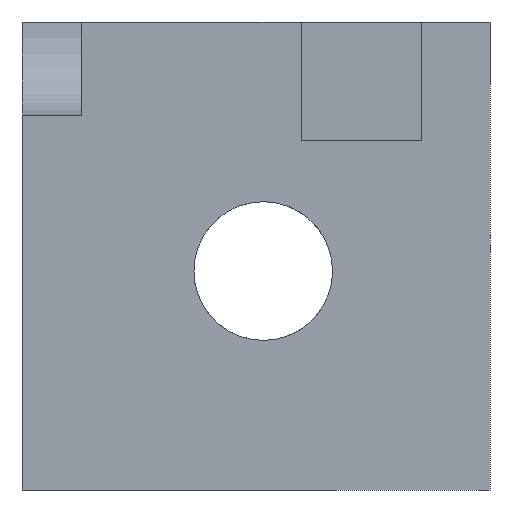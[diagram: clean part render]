
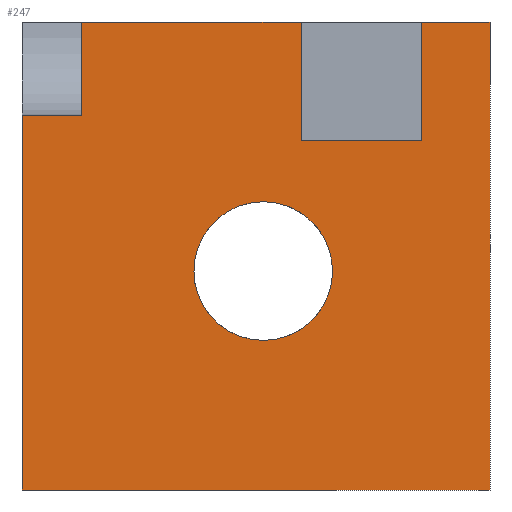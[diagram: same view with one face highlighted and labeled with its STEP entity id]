
A CAD part, left-side view. The second image highlights one B-rep face of the part: STEP entity #247.
In plain terms, the highlighted planar face has unit normal (-1, 0, 0).
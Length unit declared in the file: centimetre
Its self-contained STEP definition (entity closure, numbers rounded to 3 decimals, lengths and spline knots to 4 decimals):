
#8 = VERTEX_POINT ( 'NONE', #590 ) ;
#16 = ORIENTED_EDGE ( 'NONE', *, *, #20, .F. ) ;
#20 = EDGE_CURVE ( 'NONE', #8, #983, #347, .T. ) ;
#25 = ORIENTED_EDGE ( 'NONE', *, *, #130, .F. ) ;
#30 = CARTESIAN_POINT ( 'NONE',  ( 0., 484.528, 615.9518 ) ) ;
#35 = EDGE_CURVE ( 'NONE', #531, #144, #831, .T. ) ;
#53 = LINE ( 'NONE', #872, #453 ) ;
#58 = DIRECTION ( 'NONE',  ( 1., 0., 0. ) ) ;
#64 = EDGE_CURVE ( 'NONE', #198, #599, #1035, .T. ) ;
#67 = CARTESIAN_POINT ( 'NONE',  ( 0., 872.1332, 1000. ) ) ;
#76 = DIRECTION ( 'NONE',  ( 0., 0., -1. ) ) ;
#78 = VERTEX_POINT ( 'NONE', #966 ) ;
#101 = EDGE_CURVE ( 'NONE', #983, #333, #723, .T. ) ;
#103 = CARTESIAN_POINT ( 'NONE',  ( 0., 1000., 1000. ) ) ;
#108 = CIRCLE ( 'NONE', #685, 148.1271 ) ;
#114 = CARTESIAN_POINT ( 'NONE',  ( 0., 1000., 0. ) ) ;
#126 = DIRECTION ( 'NONE',  ( 0., 0., -1. ) ) ;
#128 = CARTESIAN_POINT ( 'NONE',  ( 0., 146.6633, 747.7578 ) ) ;
#130 = EDGE_CURVE ( 'NONE', #765, #531, #730, .T. ) ;
#132 = CARTESIAN_POINT ( 'NONE',  ( 0., 0., 1000. ) ) ;
#144 = VERTEX_POINT ( 'NONE', #890 ) ;
#157 = DIRECTION ( 'NONE',  ( 0., 0., 1. ) ) ;
#172 = CARTESIAN_POINT ( 'NONE',  ( 0., 1000., 800.3839 ) ) ;
#176 = ORIENTED_EDGE ( 'NONE', *, *, #183, .F. ) ;
#178 = FACE_OUTER_BOUND ( 'NONE', #356, .T. ) ;
#183 = EDGE_CURVE ( 'NONE', #78, #709, #406, .T. ) ;
#191 = LINE ( 'NONE', #594, #468 ) ;
#198 = VERTEX_POINT ( 'NONE', #172 ) ;
#206 = CARTESIAN_POINT ( 'NONE',  ( 0., 872.1332, 1000. ) ) ;
#209 = VECTOR ( 'NONE', #76, 100. ) ;
#228 = CARTESIAN_POINT ( 'NONE',  ( 0., 484.528, 467.8248 ) ) ;
#247 = ADVANCED_FACE ( 'NONE', ( #254, #178 ), #579, .F. ) ;
#254 = FACE_BOUND ( 'NONE', #492, .T. ) ;
#267 = AXIS2_PLACEMENT_3D ( 'NONE', #228, #58, #554 ) ;
#278 = CARTESIAN_POINT ( 'NONE',  ( 0., 484.528, 467.8248 ) ) ;
#282 = VECTOR ( 'NONE', #911, 100. ) ;
#333 = VERTEX_POINT ( 'NONE', #741 ) ;
#347 = LINE ( 'NONE', #508, #282 ) ;
#349 = VECTOR ( 'NONE', #157, 100. ) ;
#356 = EDGE_LOOP ( 'NONE', ( #25, #566, #729, #1031, #425, #16, #968, #176, #705, #969 ) ) ;
#359 = DIRECTION ( 'NONE',  ( 0., 1., 0. ) ) ;
#406 = LINE ( 'NONE', #419, #649 ) ;
#419 = CARTESIAN_POINT ( 'NONE',  ( 0., 146.6633, 747.7578 ) ) ;
#425 = ORIENTED_EDGE ( 'NONE', *, *, #101, .F. ) ;
#433 = DIRECTION ( 'NONE',  ( 0., -1., 0. ) ) ;
#448 = DIRECTION ( 'NONE',  ( 0., 0., -1. ) ) ;
#453 = VECTOR ( 'NONE', #560, 100. ) ;
#456 = EDGE_CURVE ( 'NONE', #765, #198, #191, .T. ) ;
#467 = EDGE_CURVE ( 'NONE', #814, #578, #108, .T. ) ;
#468 = VECTOR ( 'NONE', #359, 100. ) ;
#479 = CARTESIAN_POINT ( 'NONE',  ( 0., 0., 1000. ) ) ;
#484 = CARTESIAN_POINT ( 'NONE',  ( 0., 1000., 1000. ) ) ;
#492 = EDGE_LOOP ( 'NONE', ( #917, #732 ) ) ;
#508 = CARTESIAN_POINT ( 'NONE',  ( 0., 1000., 1000. ) ) ;
#520 = DIRECTION ( 'NONE',  ( 0., -1., 0. ) ) ;
#529 = EDGE_CURVE ( 'NONE', #599, #333, #592, .T. ) ;
#531 = VERTEX_POINT ( 'NONE', #206 ) ;
#537 = LINE ( 'NONE', #761, #867 ) ;
#554 = DIRECTION ( 'NONE',  ( 0., 0., -1. ) ) ;
#560 = DIRECTION ( 'NONE',  ( 0., 0., 1. ) ) ;
#566 = ORIENTED_EDGE ( 'NONE', *, *, #456, .T. ) ;
#578 = VERTEX_POINT ( 'NONE', #754 ) ;
#579 = PLANE ( 'NONE',  #696 ) ;
#590 = CARTESIAN_POINT ( 'NONE',  ( 0., 146.6633, 1000. ) ) ;
#592 = LINE ( 'NONE', #114, #837 ) ;
#594 = CARTESIAN_POINT ( 'NONE',  ( 0., 872.1332, 800.3839 ) ) ;
#599 = VERTEX_POINT ( 'NONE', #785 ) ;
#644 = DIRECTION ( 'NONE',  ( 0., -1., 0. ) ) ;
#649 = VECTOR ( 'NONE', #644, 100. ) ;
#685 = AXIS2_PLACEMENT_3D ( 'NONE', #278, #989, #448 ) ;
#690 = CARTESIAN_POINT ( 'NONE',  ( 0., 872.1332, 800.3839 ) ) ;
#696 = AXIS2_PLACEMENT_3D ( 'NONE', #1051, #980, #976 ) ;
#705 = ORIENTED_EDGE ( 'NONE', *, *, #728, .F. ) ;
#709 = VERTEX_POINT ( 'NONE', #128 ) ;
#723 = LINE ( 'NONE', #479, #209 ) ;
#728 = EDGE_CURVE ( 'NONE', #144, #78, #537, .T. ) ;
#729 = ORIENTED_EDGE ( 'NONE', *, *, #64, .T. ) ;
#730 = LINE ( 'NONE', #67, #349 ) ;
#732 = ORIENTED_EDGE ( 'NONE', *, *, #467, .T. ) ;
#741 = CARTESIAN_POINT ( 'NONE',  ( 0., 0., 0. ) ) ;
#754 = CARTESIAN_POINT ( 'NONE',  ( 0., 484.528, 319.6977 ) ) ;
#761 = CARTESIAN_POINT ( 'NONE',  ( 0., 403.7733, 747.7578 ) ) ;
#765 = VERTEX_POINT ( 'NONE', #690 ) ;
#785 = CARTESIAN_POINT ( 'NONE',  ( 0., 1000., 0. ) ) ;
#800 = VECTOR ( 'NONE', #433, 100. ) ;
#803 = CIRCLE ( 'NONE', #267, 148.1271 ) ;
#814 = VERTEX_POINT ( 'NONE', #30 ) ;
#831 = LINE ( 'NONE', #103, #800 ) ;
#837 = VECTOR ( 'NONE', #520, 100. ) ;
#867 = VECTOR ( 'NONE', #126, 100. ) ;
#872 = CARTESIAN_POINT ( 'NONE',  ( 0., 146.6633, 747.7578 ) ) ;
#875 = DIRECTION ( 'NONE',  ( 0., 0., -1. ) ) ;
#890 = CARTESIAN_POINT ( 'NONE',  ( 0., 403.7733, 1000. ) ) ;
#893 = EDGE_CURVE ( 'NONE', #578, #814, #803, .T. ) ;
#911 = DIRECTION ( 'NONE',  ( 0., -1., 0. ) ) ;
#917 = ORIENTED_EDGE ( 'NONE', *, *, #893, .T. ) ;
#920 = VECTOR ( 'NONE', #875, 100. ) ;
#944 = EDGE_CURVE ( 'NONE', #709, #8, #53, .T. ) ;
#966 = CARTESIAN_POINT ( 'NONE',  ( 0., 403.7733, 747.7578 ) ) ;
#968 = ORIENTED_EDGE ( 'NONE', *, *, #944, .F. ) ;
#969 = ORIENTED_EDGE ( 'NONE', *, *, #35, .F. ) ;
#976 = DIRECTION ( 'NONE',  ( 0., 0., -1. ) ) ;
#980 = DIRECTION ( 'NONE',  ( 1., 0., 0. ) ) ;
#983 = VERTEX_POINT ( 'NONE', #132 ) ;
#989 = DIRECTION ( 'NONE',  ( 1., 0., 0. ) ) ;
#1031 = ORIENTED_EDGE ( 'NONE', *, *, #529, .T. ) ;
#1035 = LINE ( 'NONE', #484, #920 ) ;
#1051 = CARTESIAN_POINT ( 'NONE',  ( 0., 1000., 1000. ) ) ;
